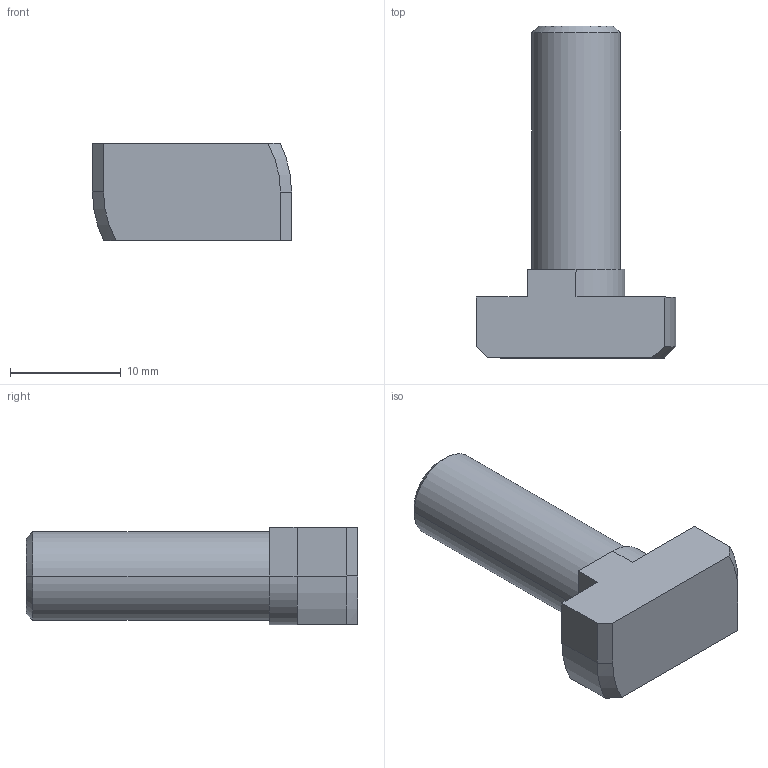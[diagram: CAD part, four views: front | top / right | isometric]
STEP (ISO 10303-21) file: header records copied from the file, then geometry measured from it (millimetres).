
FILE_DESCRIPTION((''),'2;1');
FILE_NAME('VTM082509','2002-12-27T',('Lipro doo'),('Lipro d.o.o.'),'PRO/ENGINEER BY PARAMETRIC TECHNOLOGY CORPORATION, 2001150','PRO/ENGINEER BY PARAMETRIC TECHNOLOGY CORPORATION, 2001150','');
FILE_SCHEMA(('CONFIG_CONTROL_DESIGN'));
Length unit declared in the file: millimetre
Products named in the file (1): VTM082509
Bounding box: 18 x 30 x 8.8 mm (x, y, z)
Volume: 2120.5 mm3; surface area: 1675.8 mm2
Topology: 1 solids, 2 shells, 25 faces, 62 edges, 40 vertices
Faces by surface type: plane 13, cylinder 8, cone 4
Entity records: 794 total; most frequent: CARTESIAN_POINT 138, DIRECTION 132, ORIENTED_EDGE 120, EDGE_CURVE 62, AXIS2_PLACEMENT_3D 46, VECTOR 40, LINE 40, VERTEX_POINT 40
